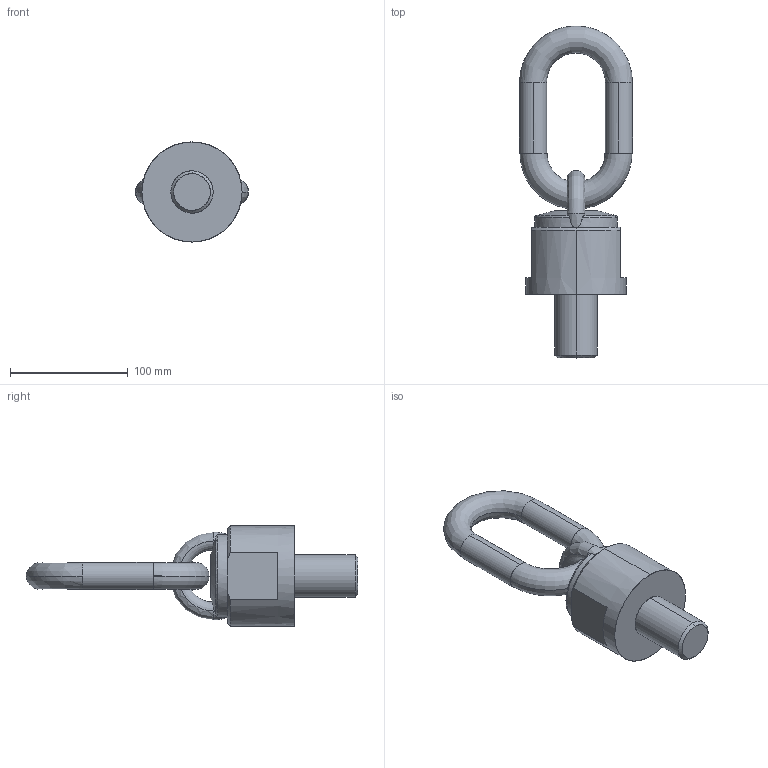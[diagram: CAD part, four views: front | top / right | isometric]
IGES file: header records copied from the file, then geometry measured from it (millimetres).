
Start section: START RECORD GO HERE.
Global section: file name: C8000803654.igs; native system: DASSAULT SYSTEMES CATIA V5 R20 - www.3ds.com; preprocessor: CATIA Version 5 Release 20 ; author: Utente; organization: NB04-ASUS; date: 20200412.161143; units: millimetre
Bounding box: 96 x 282 x 85 mm (x, y, z)
Surface area: 62856.4 mm2 (no closed solid volume)
Topology: 0 solids, 0 shells, 45 faces, 239 edges, 239 vertices
Faces by surface type: revolution 33, extrusion 12
